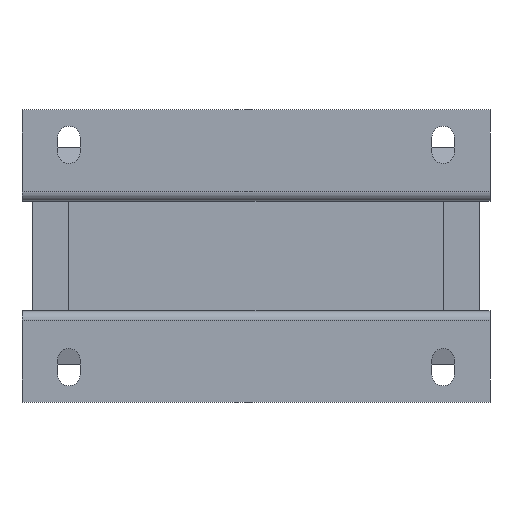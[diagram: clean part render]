
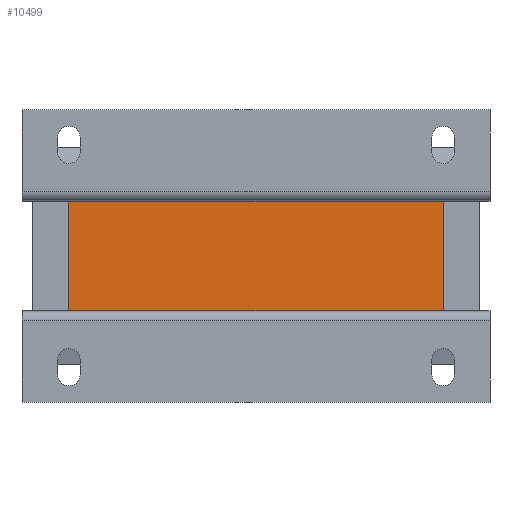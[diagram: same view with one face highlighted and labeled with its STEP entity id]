
A CAD part, front view. The second image highlights one B-rep face of the part: STEP entity #10499.
In plain terms, the highlighted planar face has unit normal (0, -1, 0).
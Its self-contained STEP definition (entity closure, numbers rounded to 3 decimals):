
#245 = ORIENTED_EDGE ( 'NONE', *, *, #5366, .F. ) ;
#297 = DIRECTION ( 'NONE',  ( 1., 0., 0. ) ) ;
#468 = VECTOR ( 'NONE', #12846, 1000. ) ;
#693 = VERTEX_POINT ( 'NONE', #1292 ) ;
#918 = LINE ( 'NONE', #7015, #4977 ) ;
#981 = DIRECTION ( 'NONE',  ( 0., 0., 1. ) ) ;
#1036 = VECTOR ( 'NONE', #297, 1000. ) ;
#1292 = CARTESIAN_POINT ( 'NONE',  ( 40., 4., 11.75 ) ) ;
#2905 = DIRECTION ( 'NONE',  ( 1., 0., 0. ) ) ;
#3126 = ORIENTED_EDGE ( 'NONE', *, *, #9544, .F. ) ;
#3860 = EDGE_CURVE ( 'NONE', #9473, #4898, #8792, .T. ) ;
#4148 = EDGE_CURVE ( 'NONE', #4898, #693, #918, .T. ) ;
#4842 = AXIS2_PLACEMENT_3D ( 'NONE', #10865, #5858, #2905 ) ;
#4898 = VERTEX_POINT ( 'NONE', #6890 ) ;
#4946 = VECTOR ( 'NONE', #9753, 1000. ) ;
#4977 = VECTOR ( 'NONE', #981, 1000. ) ;
#5366 = EDGE_CURVE ( 'NONE', #9473, #6205, #5666, .T. ) ;
#5635 = CARTESIAN_POINT ( 'NONE',  ( -40., 4., -11.75 ) ) ;
#5666 = LINE ( 'NONE', #9627, #4946 ) ;
#5858 = DIRECTION ( 'NONE',  ( 0., -1., 0. ) ) ;
#6205 = VERTEX_POINT ( 'NONE', #8097 ) ;
#6523 = CARTESIAN_POINT ( 'NONE',  ( -40., 4., 11.75 ) ) ;
#6890 = CARTESIAN_POINT ( 'NONE',  ( 40., 4., -11.75 ) ) ;
#7015 = CARTESIAN_POINT ( 'NONE',  ( 40., 4., -11.75 ) ) ;
#7925 = ORIENTED_EDGE ( 'NONE', *, *, #3860, .T. ) ;
#8097 = CARTESIAN_POINT ( 'NONE',  ( -40., 4., 11.75 ) ) ;
#8148 = CARTESIAN_POINT ( 'NONE',  ( -40., 4., -11.75 ) ) ;
#8792 = LINE ( 'NONE', #5635, #468 ) ;
#9473 = VERTEX_POINT ( 'NONE', #8148 ) ;
#9544 = EDGE_CURVE ( 'NONE', #6205, #693, #11594, .T. ) ;
#9627 = CARTESIAN_POINT ( 'NONE',  ( -40., 4., -11.75 ) ) ;
#9753 = DIRECTION ( 'NONE',  ( 0., 0., 1. ) ) ;
#10082 = ORIENTED_EDGE ( 'NONE', *, *, #4148, .T. ) ;
#10499 = ADVANCED_FACE ( 'NONE', ( #13080 ), #11881, .T. ) ;
#10766 = EDGE_LOOP ( 'NONE', ( #3126, #245, #7925, #10082 ) ) ;
#10865 = CARTESIAN_POINT ( 'NONE',  ( -40., 4., -11.75 ) ) ;
#11594 = LINE ( 'NONE', #6523, #1036 ) ;
#11881 = PLANE ( 'NONE',  #4842 ) ;
#12846 = DIRECTION ( 'NONE',  ( 1., 0., 0. ) ) ;
#13080 = FACE_OUTER_BOUND ( 'NONE', #10766, .T. ) ;
